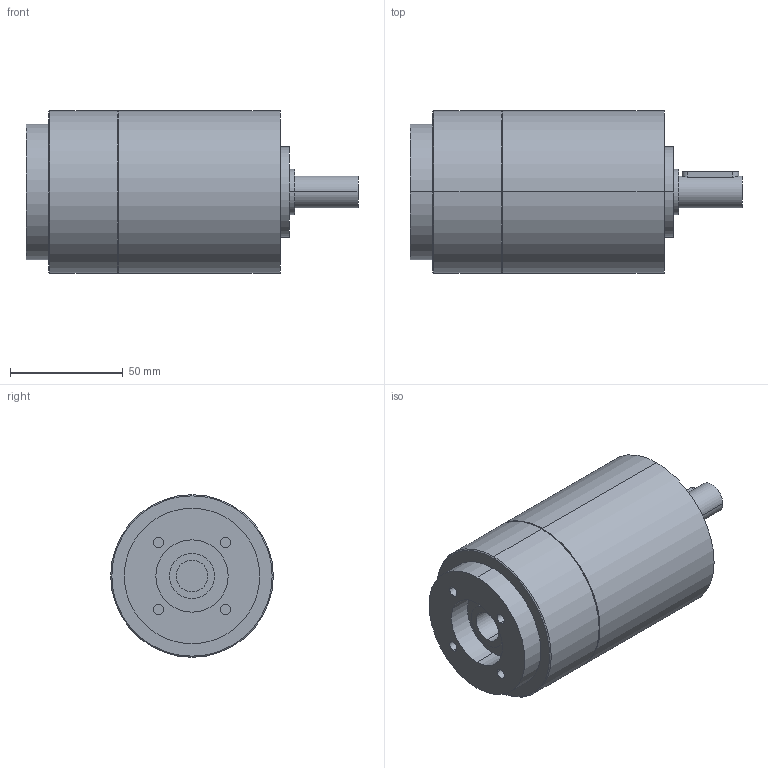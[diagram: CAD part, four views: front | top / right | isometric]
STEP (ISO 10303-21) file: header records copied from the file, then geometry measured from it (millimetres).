
FILE_DESCRIPTION(('CoCreate Modeling STEP Export'),'2;1');
FILE_NAME('GPT75_ig-9-12-16-20-25-28-35-40-50-70-100_14_B14T_14_P11.stp','2014-08-27T13:17:02',(''),(''),'CoCreate Modeling STEP processor for AP214 (Solid Model)','CoCreate Modeling 16.00C 25-Feb-2009 (C) Parametric Technology GmbH','');
FILE_SCHEMA(('AUTOMOTIVE_DESIGN { 1 0 10303 214 1 1 1 1 }'));
Length unit declared in the file: millimetre
Products named in the file (2): GPT75_ig-9-12-16-20-25-28-35-40-50-70-100_14_B14T_14_P11
Assembly tree (1 placements, depth 2):
  GPT75_ig-9-12-16-20-25-28-35-40-50-70-100_14_B14T_14_P11
    GPT75_ig-9-12-16-20-25-28-35-40-50-70-100_14_B14T_14_P11
Bounding box: 147 x 72 x 72 mm (x, y, z)
Volume: 442400 mm3; surface area: 39341.5 mm2
Topology: 1 solids, 1 shells, 64 faces, 142 edges, 97 vertices
Faces by surface type: cylinder 38, plane 22, cone 4
Entity records: 1878 total; most frequent: CARTESIAN_POINT 614, ORIENTED_EDGE 284, DIRECTION 210, EDGE_CURVE 142, VERTEX_POINT 97, AXIS2_PLACEMENT_3D 81, EDGE_LOOP 81, FACE_OUTER_BOUND 64
